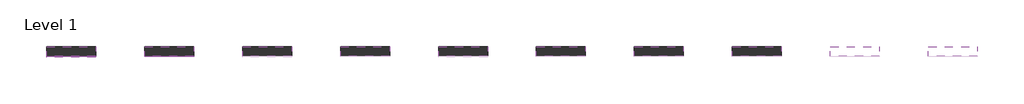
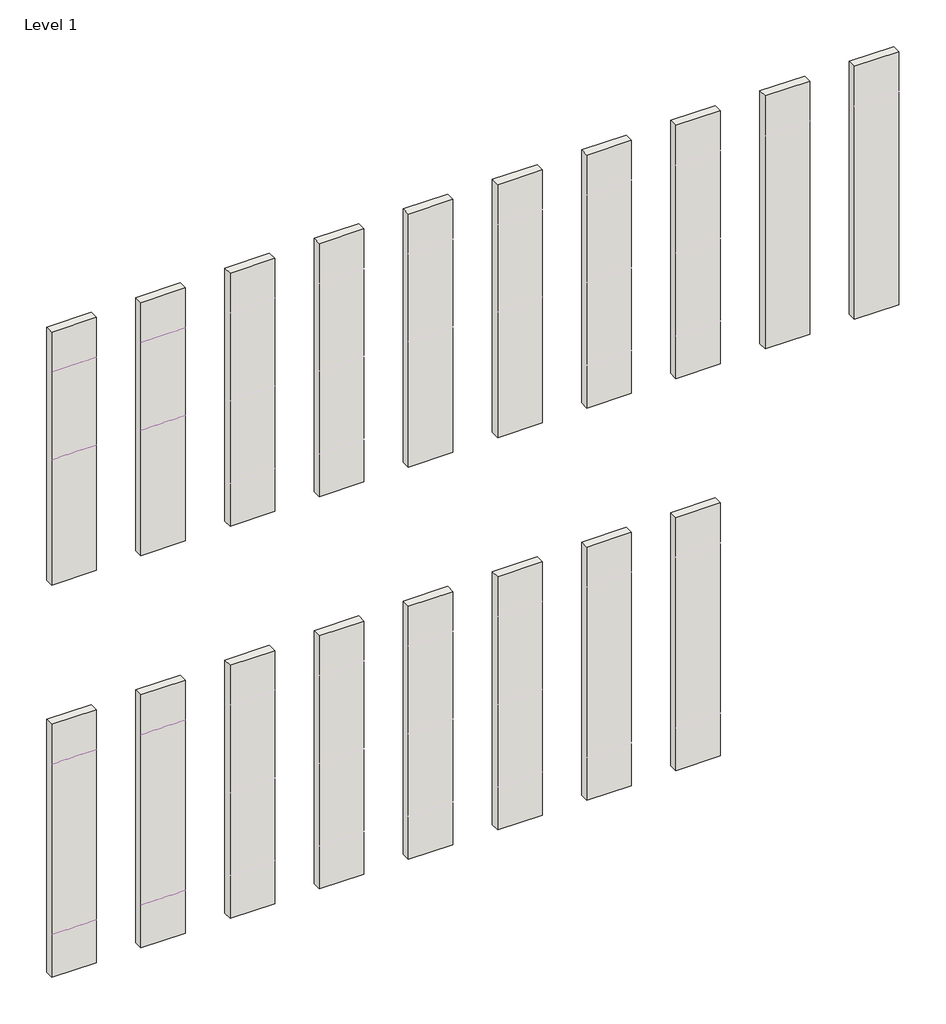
# One storey, part 1 of 2: 18 walls, 8 coverings.
"""IFC4 building model written with IfcOpenShell, lengths in millimetres."""

from ifc_helpers import new_model, si_unit, point, frame, frame_2d, origin, place, context, project, spatial, polyline, circle_curve, trimmed, segment, composite_curve, outline, extrude, faceted_brep, element, save

model = new_model("IFC4")

# Units and contexts
model_context = context("Model", 3, world=origin())
ifc_project = project(units=[si_unit("LENGTHUNIT", "METRE", prefix="MILLI")], contexts=[model_context])

# Site, building, storey
site = spatial("IfcSite", under=ifc_project)
building = spatial("IfcBuilding", under=site)
storey = spatial("IfcBuildingStorey", under=building, Name="Level 1", Elevation=0.0)

# Coverings
placement = place(None, origin())
element("IfcCovering", 1, ObjectType="MARGRES-TIME 2.0-SKIRTING-8x90-NR-BEIGE", at=placement, inside=storey, context=model_context, shape_type="SweptSolid", body=[
    extrude(outline(composite_curve([segment(polyline([(9.7350488, 12280.0), (0.2350488, 12280.0), (0.2350488, 12350.5)]), True, "CONTINUOUS"), segment(trimmed(circle_curve(frame_2d((9.7350488, 12350.5)), 9.5), [point((0.2350488, 12350.5))], [point((9.7350488, 12360.0))], False, "CARTESIAN"), True, "CONTINUOUS"), segment(polyline([(9.7350488, 12360.0), (9.7350488, 12280.0)]), True, "CONTINUOUS")], self_intersect=False)), frame((2235.4501166, 0.0, 0.0), z_axis=(1.0, 0.0, 0.0), x_axis=(0.0, 1.0, 0.0)), (0.0, 0.0, 1.0), 1000.0),
])
element("IfcCovering", 2, ObjectType="MARGRES-TIME 2.0-SKIRTING-8x60-NR-BEIGE", at=placement, inside=storey, context=model_context, shape_type="SweptSolid", body=[
    extrude(outline(composite_curve([segment(polyline([(9.7350488, 14360.0), (-0.2649512, 14360.0), (-0.2649512, 14430.0)]), True, "CONTINUOUS"), segment(trimmed(circle_curve(frame_2d((9.7350488, 14430.0)), 10.0), [point((-0.2649512, 14430.0))], [point((9.7350488, 14440.0))], False, "CARTESIAN"), True, "CONTINUOUS"), segment(polyline([(9.7350488, 14440.0), (9.7350488, 14360.0)]), True, "CONTINUOUS")], self_intersect=False)), frame((2235.4501166, 0.0, 0.0), z_axis=(1.0, 0.0, 0.0), x_axis=(0.0, 1.0, 0.0)), (0.0, 0.0, 1.0), 1000.0),
])
element("IfcCovering", 3, ObjectType="MARGRES-TIME 2.0-SKIRTING-8x90-P-BEIGE", at=placement, inside=storey, context=model_context, shape_type="SweptSolid", body=[
    extrude(outline(composite_curve([segment(polyline([(9.7350488, 12280.0), (-0.7649512, 12280.0), (-0.7649512, 12349.5)]), True, "CONTINUOUS"), segment(trimmed(circle_curve(frame_2d((9.7350488, 12349.5)), 10.5), [point((-0.7649512, 12349.5))], [point((9.7350488, 12360.0))], False, "CARTESIAN"), True, "CONTINUOUS"), segment(polyline([(9.7350488, 12360.0), (9.7350488, 12280.0)]), True, "CONTINUOUS")], self_intersect=False)), frame((4235.4501166, 0.0, 0.0), z_axis=(1.0, 0.0, 0.0), x_axis=(0.0, 1.0, 0.0)), (0.0, 0.0, 1.0), 1000.0),
])
element("IfcCovering", 4, ObjectType="MARGRES-TIME 2.0-SKIRTING-8x60-P-BEIGE", at=placement, inside=storey, context=model_context, shape_type="SweptSolid", body=[
    extrude(outline(composite_curve([segment(polyline([(9.7350488, 14360.0), (0.2350488, 14360.0), (0.2350488, 14430.5)]), True, "CONTINUOUS"), segment(trimmed(circle_curve(frame_2d((9.7350488, 14430.5)), 9.5), [point((0.2350488, 14430.5))], [point((9.7350488, 14440.0))], False, "CARTESIAN"), True, "CONTINUOUS"), segment(polyline([(9.7350488, 14440.0), (9.7350488, 14360.0)]), True, "CONTINUOUS")], self_intersect=False)), frame((4235.4501166, 0.0, 0.0), z_axis=(1.0, 0.0, 0.0), x_axis=(0.0, 1.0, 0.0)), (0.0, 0.0, 1.0), 1000.0),
])
element("IfcCovering", 5, ObjectType="MARGRES-TIME 2.0-SKIRTING-8x120-NR-GREY", at=placement, inside=storey, context=model_context, shape_type="SweptSolid", body=[
    extrude(outline(composite_curve([segment(polyline([(9.7350488, 1020.0), (-1.2649512, 1020.0), (-1.2649512, 1089.0)]), True, "CONTINUOUS"), segment(trimmed(circle_curve(frame_2d((9.7350488, 1089.0)), 11.0), [point((-1.2649512, 1089.0))], [point((9.7350488, 1100.0))], False, "CARTESIAN"), True, "CONTINUOUS"), segment(polyline([(9.7350488, 1100.0), (9.7350488, 1020.0)]), True, "CONTINUOUS")], self_intersect=False)), frame((2235.4501166, 0.0, 0.0), z_axis=(1.0, 0.0, 0.0), x_axis=(0.0, 1.0, 0.0)), (0.0, 0.0, 1.0), 1000.0),
])
element("IfcCovering", 6, ObjectType="MARGRES-TIME 2.0-SKIRTING-8x60-NR-GREY", at=placement, inside=storey, context=model_context, shape_type="SweptSolid", body=[
    extrude(outline(composite_curve([segment(polyline([(9.7350488, 5060.0), (-0.2649512, 5060.0), (-0.2649512, 5130.0)]), True, "CONTINUOUS"), segment(trimmed(circle_curve(frame_2d((9.7350488, 5130.0)), 10.0), [point((-0.2649512, 5130.0))], [point((9.7350488, 5140.0))], False, "CARTESIAN"), True, "CONTINUOUS"), segment(polyline([(9.7350488, 5140.0), (9.7350488, 5060.0)]), True, "CONTINUOUS")], self_intersect=False)), frame((2235.4501166, 0.0, 0.0), z_axis=(1.0, 0.0, 0.0), x_axis=(0.0, 1.0, 0.0)), (0.0, 0.0, 1.0), 1000.0),
])
element("IfcCovering", 7, ObjectType="MARGRES-TIME 2.0-SKIRTING-8x120-P-GREY", at=placement, inside=storey, context=model_context, shape_type="SweptSolid", body=[
    extrude(outline(composite_curve([segment(polyline([(9.7350488, 1020.0), (-0.7649512, 1020.0), (-0.7649512, 1089.5)]), True, "CONTINUOUS"), segment(trimmed(circle_curve(frame_2d((9.7350488, 1089.5)), 10.5), [point((-0.7649512, 1089.5))], [point((9.7350488, 1100.0))], False, "CARTESIAN"), True, "CONTINUOUS"), segment(polyline([(9.7350488, 1100.0), (9.7350488, 1020.0)]), True, "CONTINUOUS")], self_intersect=False)), frame((4235.4501166, 0.0, 0.0), z_axis=(1.0, 0.0, 0.0), x_axis=(0.0, 1.0, 0.0)), (0.0, 0.0, 1.0), 1000.0),
])
element("IfcCovering", 8, ObjectType="MARGRES-TIME 2.0-SKIRTING-8x60-P-GREY", at=placement, inside=storey, context=model_context, shape_type="SweptSolid", body=[
    extrude(outline(composite_curve([segment(polyline([(9.7350488, 5060.0), (0.2350488, 5060.0), (0.2350488, 5130.5)]), True, "CONTINUOUS"), segment(trimmed(circle_curve(frame_2d((9.7350488, 5130.5)), 9.5), [point((0.2350488, 5130.5))], [point((9.7350488, 5140.0))], False, "CARTESIAN"), True, "CONTINUOUS"), segment(polyline([(9.7350488, 5140.0), (9.7350488, 5060.0)]), True, "CONTINUOUS")], self_intersect=False)), frame((4235.4501166, 0.0, 0.0), z_axis=(1.0, 0.0, 0.0), x_axis=(0.0, 1.0, 0.0)), (0.0, 0.0, 1.0), 1000.0),
])

# Walls
element("IfcWall", 9, ObjectType="Wall 1", at=placement, inside=storey, context=model_context, shape_type="Brep", body=[
    faceted_brep([(2235.4501166, 9.7350488, 9300.0), (3235.4501166, 9.7350488, 9300.0), (3235.4501166, 9.7350488, 12280.0), (3235.4501166, 9.7350488, 12360.0), (3235.4501166, 9.7350488, 14360.0), (3235.4501166, 9.7350488, 14440.0), (3235.4501166, 9.7350488, 15300.0), (2235.4501166, 9.7350488, 15300.0), (2235.4501166, 9.7350488, 14440.0), (2235.4501166, 9.7350488, 14360.0), (2235.4501166, 9.7350488, 12360.0), (2235.4501166, 9.7350488, 12280.0), (3235.4501166, 209.7350488, 9300.0), (2235.4501166, 209.7350488, 9300.0), (2235.4501166, 209.7350488, 15300.0), (3235.4501166, 209.7350488, 15300.0)], [[[0, 1, 2, 3, 4, 5, 6, 7, 8, 9, 10, 11]], [[12, 13, 14, 15]], [[1, 0, 13, 12]], [[12, 15, 6, 5, 4, 3, 2, 1]], [[7, 6, 15, 14]], [[14, 13, 0, 11, 10, 9, 8, 7]]]),
])
element("IfcWall", 10, ObjectType="Wall 1", at=placement, inside=storey, context=model_context, shape_type="Brep", body=[
    faceted_brep([(4235.4501166, 9.7350488, 9300.0), (5235.4501166, 9.7350488, 9300.0), (5235.4501166, 9.7350488, 12280.0), (5235.4501166, 9.7350488, 12360.0), (5235.4501166, 9.7350488, 14360.0), (5235.4501166, 9.7350488, 14440.0), (5235.4501166, 9.7350488, 15300.0), (4235.4501166, 9.7350488, 15300.0), (4235.4501166, 9.7350488, 14440.0), (4235.4501166, 9.7350488, 14360.0), (4235.4501166, 9.7350488, 12360.0), (4235.4501166, 9.7350488, 12280.0), (5235.4501166, 209.7350488, 9300.0), (4235.4501166, 209.7350488, 9300.0), (4235.4501166, 209.7350488, 15300.0), (5235.4501166, 209.7350488, 15300.0)], [[[0, 1, 2, 3, 4, 5, 6, 7, 8, 9, 10, 11]], [[12, 13, 14, 15]], [[1, 0, 13, 12]], [[12, 15, 6, 5, 4, 3, 2, 1]], [[7, 6, 15, 14]], [[14, 13, 0, 11, 10, 9, 8, 7]]]),
])
element("IfcWall", 11, ObjectType="Wall 1", at=placement, inside=storey, context=model_context, shape_type="Brep", body=[
    faceted_brep([(6235.4501166, 9.7350488, 9300.0), (7235.4501166, 9.7350488, 9300.0), (7235.4501166, 9.7350488, 10320.0), (7235.4501166, 9.7350488, 10400.0), (7235.4501166, 9.7350488, 12280.0), (7235.4501166, 9.7350488, 12360.0), (7235.4501166, 9.7350488, 14360.0), (7235.4501166, 9.7350488, 14440.0), (7235.4501166, 9.7350488, 15300.0), (6235.4501166, 9.7350488, 15300.0), (6235.4501166, 9.7350488, 14440.0), (6235.4501166, 9.7350488, 14360.0), (6235.4501166, 9.7350488, 12360.0), (6235.4501166, 9.7350488, 12280.0), (6235.4501166, 9.7350488, 10400.0), (6235.4501166, 9.7350488, 10320.0), (7235.4501166, 209.7350488, 9300.0), (6235.4501166, 209.7350488, 9300.0), (6235.4501166, 209.7350488, 15300.0), (7235.4501166, 209.7350488, 15300.0)], [[[0, 1, 2, 3, 4, 5, 6, 7, 8, 9, 10, 11, 12, 13, 14, 15]], [[16, 17, 18, 19]], [[1, 0, 17, 16]], [[16, 19, 8, 7, 6, 5, 4, 3, 2, 1]], [[9, 8, 19, 18]], [[18, 17, 0, 15, 14, 13, 12, 11, 10, 9]]]),
])
element("IfcWall", 12, ObjectType="Wall 1", at=placement, inside=storey, context=model_context, shape_type="Brep", body=[
    faceted_brep([(8235.4501166, 9.7350488, 9300.0), (9235.4501166, 9.7350488, 9300.0), (9235.4501166, 9.7350488, 10320.0), (9235.4501166, 9.7350488, 10400.0), (9235.4501166, 9.7350488, 12280.0), (9235.4501166, 9.7350488, 12360.0), (9235.4501166, 9.7350488, 14360.0), (9235.4501166, 9.7350488, 14440.0), (9235.4501166, 9.7350488, 15300.0), (8235.4501166, 9.7350488, 15300.0), (8235.4501166, 9.7350488, 14440.0), (8235.4501166, 9.7350488, 14360.0), (8235.4501166, 9.7350488, 12360.0), (8235.4501166, 9.7350488, 12280.0), (8235.4501166, 9.7350488, 10400.0), (8235.4501166, 9.7350488, 10320.0), (9235.4501166, 209.7350488, 9300.0), (8235.4501166, 209.7350488, 9300.0), (8235.4501166, 209.7350488, 15300.0), (9235.4501166, 209.7350488, 15300.0)], [[[0, 1, 2, 3, 4, 5, 6, 7, 8, 9, 10, 11, 12, 13, 14, 15]], [[16, 17, 18, 19]], [[1, 0, 17, 16]], [[16, 19, 8, 7, 6, 5, 4, 3, 2, 1]], [[9, 8, 19, 18]], [[18, 17, 0, 15, 14, 13, 12, 11, 10, 9]]]),
])
element("IfcWall", 13, ObjectType="Wall 1", at=placement, inside=storey, context=model_context, shape_type="Brep", body=[
    faceted_brep([(10235.4501166, 9.7350488, 9300.0), (11235.4501166, 9.7350488, 9300.0), (11235.4501166, 9.7350488, 12280.0), (11235.4501166, 9.7350488, 12360.0), (11235.4501166, 9.7350488, 14360.0), (11235.4501166, 9.7350488, 14440.0), (11235.4501166, 9.7350488, 15300.0), (10235.4501166, 9.7350488, 15300.0), (10235.4501166, 9.7350488, 14440.0), (10235.4501166, 9.7350488, 14360.0), (10235.4501166, 9.7350488, 12360.0), (10235.4501166, 9.7350488, 12280.0), (11235.4501166, 209.7350488, 9300.0), (10235.4501166, 209.7350488, 9300.0), (10235.4501166, 209.7350488, 15300.0), (11235.4501166, 209.7350488, 15300.0)], [[[0, 1, 2, 3, 4, 5, 6, 7, 8, 9, 10, 11]], [[12, 13, 14, 15]], [[1, 0, 13, 12]], [[12, 15, 6, 5, 4, 3, 2, 1]], [[7, 6, 15, 14]], [[14, 13, 0, 11, 10, 9, 8, 7]]]),
])
element("IfcWall", 14, ObjectType="Wall 1", at=placement, inside=storey, context=model_context, shape_type="Brep", body=[
    faceted_brep([(12235.4501166, 9.7350488, 9300.0), (13235.4501166, 9.7350488, 9300.0), (13235.4501166, 9.7350488, 12280.0), (13235.4501166, 9.7350488, 12360.0), (13235.4501166, 9.7350488, 14360.0), (13235.4501166, 9.7350488, 14440.0), (13235.4501166, 9.7350488, 15300.0), (12235.4501166, 9.7350488, 15300.0), (12235.4501166, 9.7350488, 14440.0), (12235.4501166, 9.7350488, 14360.0), (12235.4501166, 9.7350488, 12360.0), (12235.4501166, 9.7350488, 12280.0), (13235.4501166, 209.7350488, 9300.0), (12235.4501166, 209.7350488, 9300.0), (12235.4501166, 209.7350488, 15300.0), (13235.4501166, 209.7350488, 15300.0)], [[[0, 1, 2, 3, 4, 5, 6, 7, 8, 9, 10, 11]], [[12, 13, 14, 15]], [[1, 0, 13, 12]], [[12, 15, 6, 5, 4, 3, 2, 1]], [[7, 6, 15, 14]], [[14, 13, 0, 11, 10, 9, 8, 7]]]),
])
element("IfcWall", 15, ObjectType="Wall 1", at=placement, inside=storey, context=model_context, shape_type="Brep", body=[
    faceted_brep([(14235.4501166, 9.7350488, 9300.0), (15235.4501166, 9.7350488, 9300.0), (15235.4501166, 9.7350488, 10320.0), (15235.4501166, 9.7350488, 10400.0), (15235.4501166, 9.7350488, 12280.0), (15235.4501166, 9.7350488, 12360.0), (15235.4501166, 9.7350488, 14360.0), (15235.4501166, 9.7350488, 14440.0), (15235.4501166, 9.7350488, 15300.0), (14235.4501166, 9.7350488, 15300.0), (14235.4501166, 9.7350488, 14440.0), (14235.4501166, 9.7350488, 14360.0), (14235.4501166, 9.7350488, 12360.0), (14235.4501166, 9.7350488, 12280.0), (14235.4501166, 9.7350488, 10400.0), (14235.4501166, 9.7350488, 10320.0), (15235.4501166, 209.7350488, 9300.0), (14235.4501166, 209.7350488, 9300.0), (14235.4501166, 209.7350488, 15300.0), (15235.4501166, 209.7350488, 15300.0)], [[[0, 1, 2, 3, 4, 5, 6, 7, 8, 9, 10, 11, 12, 13, 14, 15]], [[16, 17, 18, 19]], [[1, 0, 17, 16]], [[16, 19, 8, 7, 6, 5, 4, 3, 2, 1]], [[9, 8, 19, 18]], [[18, 17, 0, 15, 14, 13, 12, 11, 10, 9]]]),
])
element("IfcWall", 16, ObjectType="Wall 1", at=placement, inside=storey, context=model_context, shape_type="Brep", body=[
    faceted_brep([(16235.4501166, 9.7350488, 9300.0), (17235.4501166, 9.7350488, 9300.0), (17235.4501166, 9.7350488, 10320.0), (17235.4501166, 9.7350488, 10400.0), (17235.4501166, 9.7350488, 12280.0), (17235.4501166, 9.7350488, 12360.0), (17235.4501166, 9.7350488, 14360.0), (17235.4501166, 9.7350488, 14440.0), (17235.4501166, 9.7350488, 15300.0), (16235.4501166, 9.7350488, 15300.0), (16235.4501166, 9.7350488, 14440.0), (16235.4501166, 9.7350488, 14360.0), (16235.4501166, 9.7350488, 12360.0), (16235.4501166, 9.7350488, 12280.0), (16235.4501166, 9.7350488, 10400.0), (16235.4501166, 9.7350488, 10320.0), (17235.4501166, 209.7350488, 9300.0), (16235.4501166, 209.7350488, 9300.0), (16235.4501166, 209.7350488, 15300.0), (17235.4501166, 209.7350488, 15300.0)], [[[0, 1, 2, 3, 4, 5, 6, 7, 8, 9, 10, 11, 12, 13, 14, 15]], [[16, 17, 18, 19]], [[1, 0, 17, 16]], [[16, 19, 8, 7, 6, 5, 4, 3, 2, 1]], [[9, 8, 19, 18]], [[18, 17, 0, 15, 14, 13, 12, 11, 10, 9]]]),
])
element("IfcWall", 17, ObjectType="Wall 1", at=placement, inside=storey, context=model_context, shape_type="Brep", body=[
    faceted_brep([(18235.4501166, 9.7350488, 9300.0), (19235.4501166, 9.7350488, 9300.0), (19235.4501166, 9.7350488, 14360.0), (19235.4501166, 9.7350488, 14440.0), (19235.4501166, 9.7350488, 15300.0), (18235.4501166, 9.7350488, 15300.0), (18235.4501166, 9.7350488, 14440.0), (18235.4501166, 9.7350488, 14360.0), (19235.4501166, 209.7350488, 9300.0), (18235.4501166, 209.7350488, 9300.0), (18235.4501166, 209.7350488, 15300.0), (19235.4501166, 209.7350488, 15300.0)], [[[0, 1, 2, 3, 4, 5, 6, 7]], [[8, 9, 10, 11]], [[1, 0, 9, 8]], [[8, 11, 4, 3, 2, 1]], [[5, 4, 11, 10]], [[10, 9, 0, 7, 6, 5]]]),
])
element("IfcWall", 18, ObjectType="Wall 1", at=placement, inside=storey, context=model_context, shape_type="Brep", body=[
    faceted_brep([(20235.4501166, 9.7350488, 9300.0), (21235.4501166, 9.7350488, 9300.0), (21235.4501166, 9.7350488, 14360.0), (21235.4501166, 9.7350488, 14440.0), (21235.4501166, 9.7350488, 15300.0), (20235.4501166, 9.7350488, 15300.0), (20235.4501166, 9.7350488, 14440.0), (20235.4501166, 9.7350488, 14360.0), (21235.4501166, 209.7350488, 9300.0), (20235.4501166, 209.7350488, 9300.0), (20235.4501166, 209.7350488, 15300.0), (21235.4501166, 209.7350488, 15300.0)], [[[0, 1, 2, 3, 4, 5, 6, 7]], [[8, 9, 10, 11]], [[1, 0, 9, 8]], [[8, 11, 4, 3, 2, 1]], [[5, 4, 11, 10]], [[10, 9, 0, 7, 6, 5]]]),
])
element("IfcWall", 19, ObjectType="Wall 1", at=placement, inside=storey, context=model_context, shape_type="Brep", body=[
    faceted_brep([(2235.4501166, 9.7350488, 0.0), (3235.4501166, 9.7350488, 0.0), (3235.4501166, 9.7350488, 1020.0), (3235.4501166, 9.7350488, 1100.0), (3235.4501166, 9.7350488, 5060.0), (3235.4501166, 9.7350488, 5140.0), (3235.4501166, 9.7350488, 6000.0), (2235.4501166, 9.7350488, 6000.0), (2235.4501166, 9.7350488, 5140.0), (2235.4501166, 9.7350488, 5060.0), (2235.4501166, 9.7350488, 1100.0), (2235.4501166, 9.7350488, 1020.0), (3235.4501166, 209.7350488, 0.0), (2235.4501166, 209.7350488, 0.0), (2235.4501166, 209.7350488, 6000.0), (3235.4501166, 209.7350488, 6000.0)], [[[0, 1, 2, 3, 4, 5, 6, 7, 8, 9, 10, 11]], [[12, 13, 14, 15]], [[1, 0, 13, 12]], [[12, 15, 6, 5, 4, 3, 2, 1]], [[7, 6, 15, 14]], [[14, 13, 0, 11, 10, 9, 8, 7]]]),
])
element("IfcWall", 20, ObjectType="Wall 1", at=placement, inside=storey, context=model_context, shape_type="Brep", body=[
    faceted_brep([(4235.4501166, 9.7350488, 0.0), (5235.4501166, 9.7350488, 0.0), (5235.4501166, 9.7350488, 1020.0), (5235.4501166, 9.7350488, 1100.0), (5235.4501166, 9.7350488, 5060.0), (5235.4501166, 9.7350488, 5140.0), (5235.4501166, 9.7350488, 6000.0), (4235.4501166, 9.7350488, 6000.0), (4235.4501166, 9.7350488, 5140.0), (4235.4501166, 9.7350488, 5060.0), (4235.4501166, 9.7350488, 1100.0), (4235.4501166, 9.7350488, 1020.0), (5235.4501166, 209.7350488, 0.0), (4235.4501166, 209.7350488, 0.0), (4235.4501166, 209.7350488, 6000.0), (5235.4501166, 209.7350488, 6000.0)], [[[0, 1, 2, 3, 4, 5, 6, 7, 8, 9, 10, 11]], [[12, 13, 14, 15]], [[1, 0, 13, 12]], [[12, 15, 6, 5, 4, 3, 2, 1]], [[7, 6, 15, 14]], [[14, 13, 0, 11, 10, 9, 8, 7]]]),
])
element("IfcWall", 21, ObjectType="Wall 1", at=placement, inside=storey, context=model_context, shape_type="Brep", body=[
    faceted_brep([(6235.4501166, 9.7350488, 0.0), (7235.4501166, 9.7350488, 0.0), (7235.4501166, 9.7350488, 1020.0), (7235.4501166, 9.7350488, 1100.0), (7235.4501166, 9.7350488, 2980.0), (7235.4501166, 9.7350488, 3060.0), (7235.4501166, 9.7350488, 5060.0), (7235.4501166, 9.7350488, 5140.0), (7235.4501166, 9.7350488, 6000.0), (6235.4501166, 9.7350488, 6000.0), (6235.4501166, 9.7350488, 5140.0), (6235.4501166, 9.7350488, 5060.0), (6235.4501166, 9.7350488, 3060.0), (6235.4501166, 9.7350488, 2980.0), (6235.4501166, 9.7350488, 1100.0), (6235.4501166, 9.7350488, 1020.0), (7235.4501166, 209.7350488, 0.0), (6235.4501166, 209.7350488, 0.0), (6235.4501166, 209.7350488, 6000.0), (7235.4501166, 209.7350488, 6000.0)], [[[0, 1, 2, 3, 4, 5, 6, 7, 8, 9, 10, 11, 12, 13, 14, 15]], [[16, 17, 18, 19]], [[1, 0, 17, 16]], [[16, 19, 8, 7, 6, 5, 4, 3, 2, 1]], [[9, 8, 19, 18]], [[18, 17, 0, 15, 14, 13, 12, 11, 10, 9]]]),
])
element("IfcWall", 22, ObjectType="Wall 1", at=placement, inside=storey, context=model_context, shape_type="Brep", body=[
    faceted_brep([(8235.4501166, 9.7350488, 0.0), (9235.4501166, 9.7350488, 0.0), (9235.4501166, 9.7350488, 1020.0), (9235.4501166, 9.7350488, 1100.0), (9235.4501166, 9.7350488, 2980.0), (9235.4501166, 9.7350488, 3060.0), (9235.4501166, 9.7350488, 5060.0), (9235.4501166, 9.7350488, 5140.0), (9235.4501166, 9.7350488, 6000.0), (8235.4501166, 9.7350488, 6000.0), (8235.4501166, 9.7350488, 5140.0), (8235.4501166, 9.7350488, 5060.0), (8235.4501166, 9.7350488, 3060.0), (8235.4501166, 9.7350488, 2980.0), (8235.4501166, 9.7350488, 1100.0), (8235.4501166, 9.7350488, 1020.0), (9235.4501166, 209.7350488, 0.0), (8235.4501166, 209.7350488, 0.0), (8235.4501166, 209.7350488, 6000.0), (9235.4501166, 209.7350488, 6000.0)], [[[0, 1, 2, 3, 4, 5, 6, 7, 8, 9, 10, 11, 12, 13, 14, 15]], [[16, 17, 18, 19]], [[1, 0, 17, 16]], [[16, 19, 8, 7, 6, 5, 4, 3, 2, 1]], [[9, 8, 19, 18]], [[18, 17, 0, 15, 14, 13, 12, 11, 10, 9]]]),
])
element("IfcWall", 23, ObjectType="Wall 1", at=placement, inside=storey, context=model_context, shape_type="Brep", body=[
    faceted_brep([(10235.4501166, 9.7350488, 0.0), (11235.4501166, 9.7350488, 0.0), (11235.4501166, 9.7350488, 1020.0), (11235.4501166, 9.7350488, 1100.0), (11235.4501166, 9.7350488, 2980.0), (11235.4501166, 9.7350488, 3060.0), (11235.4501166, 9.7350488, 5060.0), (11235.4501166, 9.7350488, 5140.0), (11235.4501166, 9.7350488, 6000.0), (10235.4501166, 9.7350488, 6000.0), (10235.4501166, 9.7350488, 5140.0), (10235.4501166, 9.7350488, 5060.0), (10235.4501166, 9.7350488, 3060.0), (10235.4501166, 9.7350488, 2980.0), (10235.4501166, 9.7350488, 1100.0), (10235.4501166, 9.7350488, 1020.0), (11235.4501166, 209.7350488, 0.0), (10235.4501166, 209.7350488, 0.0), (10235.4501166, 209.7350488, 6000.0), (11235.4501166, 209.7350488, 6000.0)], [[[0, 1, 2, 3, 4, 5, 6, 7, 8, 9, 10, 11, 12, 13, 14, 15]], [[16, 17, 18, 19]], [[1, 0, 17, 16]], [[16, 19, 8, 7, 6, 5, 4, 3, 2, 1]], [[9, 8, 19, 18]], [[18, 17, 0, 15, 14, 13, 12, 11, 10, 9]]]),
])
element("IfcWall", 24, ObjectType="Wall 1", at=placement, inside=storey, context=model_context, shape_type="Brep", body=[
    faceted_brep([(12235.4501166, 9.7350488, 0.0), (13235.4501166, 9.7350488, 0.0), (13235.4501166, 9.7350488, 1020.0), (13235.4501166, 9.7350488, 1100.0), (13235.4501166, 9.7350488, 2980.0), (13235.4501166, 9.7350488, 3060.0), (13235.4501166, 9.7350488, 5060.0), (13235.4501166, 9.7350488, 5140.0), (13235.4501166, 9.7350488, 6000.0), (12235.4501166, 9.7350488, 6000.0), (12235.4501166, 9.7350488, 5140.0), (12235.4501166, 9.7350488, 5060.0), (12235.4501166, 9.7350488, 3060.0), (12235.4501166, 9.7350488, 2980.0), (12235.4501166, 9.7350488, 1100.0), (12235.4501166, 9.7350488, 1020.0), (13235.4501166, 209.7350488, 0.0), (12235.4501166, 209.7350488, 0.0), (12235.4501166, 209.7350488, 6000.0), (13235.4501166, 209.7350488, 6000.0)], [[[0, 1, 2, 3, 4, 5, 6, 7, 8, 9, 10, 11, 12, 13, 14, 15]], [[16, 17, 18, 19]], [[1, 0, 17, 16]], [[16, 19, 8, 7, 6, 5, 4, 3, 2, 1]], [[9, 8, 19, 18]], [[18, 17, 0, 15, 14, 13, 12, 11, 10, 9]]]),
])
element("IfcWall", 25, ObjectType="Wall 1", at=placement, inside=storey, context=model_context, shape_type="Brep", body=[
    faceted_brep([(14235.4501166, 9.7350488, 0.0), (15235.4501166, 9.7350488, 0.0), (15235.4501166, 9.7350488, 1020.0), (15235.4501166, 9.7350488, 1100.0), (15235.4501166, 9.7350488, 5060.0), (15235.4501166, 9.7350488, 5140.0), (15235.4501166, 9.7350488, 6000.0), (14235.4501166, 9.7350488, 6000.0), (14235.4501166, 9.7350488, 5140.0), (14235.4501166, 9.7350488, 5060.0), (14235.4501166, 9.7350488, 1100.0), (14235.4501166, 9.7350488, 1020.0), (15235.4501166, 209.7350488, 0.0), (14235.4501166, 209.7350488, 0.0), (14235.4501166, 209.7350488, 6000.0), (15235.4501166, 209.7350488, 6000.0)], [[[0, 1, 2, 3, 4, 5, 6, 7, 8, 9, 10, 11]], [[12, 13, 14, 15]], [[1, 0, 13, 12]], [[12, 15, 6, 5, 4, 3, 2, 1]], [[7, 6, 15, 14]], [[14, 13, 0, 11, 10, 9, 8, 7]]]),
])
element("IfcWall", 26, ObjectType="Wall 1", at=placement, inside=storey, context=model_context, shape_type="Brep", body=[
    faceted_brep([(16235.4501166, 9.7350488, 0.0), (17235.4501166, 9.7350488, 0.0), (17235.4501166, 9.7350488, 1020.0), (17235.4501166, 9.7350488, 1100.0), (17235.4501166, 9.7350488, 5060.0), (17235.4501166, 9.7350488, 5140.0), (17235.4501166, 9.7350488, 6000.0), (16235.4501166, 9.7350488, 6000.0), (16235.4501166, 9.7350488, 5140.0), (16235.4501166, 9.7350488, 5060.0), (16235.4501166, 9.7350488, 1100.0), (16235.4501166, 9.7350488, 1020.0), (17235.4501166, 209.7350488, 0.0), (16235.4501166, 209.7350488, 0.0), (16235.4501166, 209.7350488, 6000.0), (17235.4501166, 209.7350488, 6000.0)], [[[0, 1, 2, 3, 4, 5, 6, 7, 8, 9, 10, 11]], [[12, 13, 14, 15]], [[1, 0, 13, 12]], [[12, 15, 6, 5, 4, 3, 2, 1]], [[7, 6, 15, 14]], [[14, 13, 0, 11, 10, 9, 8, 7]]]),
])

save(model, "model.ifc")
